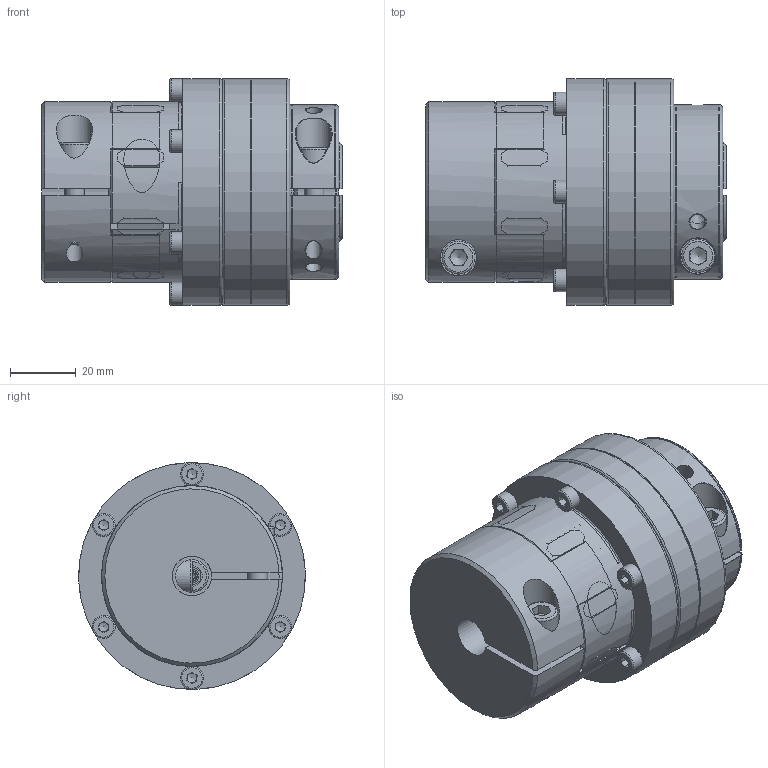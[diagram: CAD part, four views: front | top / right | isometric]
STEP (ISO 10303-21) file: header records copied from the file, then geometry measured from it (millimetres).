
FILE_DESCRIPTION( ( 'Unknown' ), '1' );
FILE_NAME( 'F:/JAKOB-STEP+IGES-Dateien/STEP-Dateien/SKB-EK/SKB-EK 15.stp', 'Unknown', ( 'Unknown' ), ( 'Unknown' ), 'XStep 1.0', 'Unknown', ' ' );
FILE_SCHEMA( ( 'CONFIG_CONTROL_DESIGN' ) );
Length unit declared in the file: millimetre
Products named in the file (11): SKB 15; Assem1; 23917252; KT102258; KT102577; KT101732; KT100050; Elastomerteil 2; kt101602; KT102316
Bounding box: 91.5 x 69 x 69 mm (x, y, z)
Surface area: 198336.2 mm2
Topology: 29 solids, 29 shells, 1280 faces, 3486 edges, 2229 vertices
Faces by surface type: plane 448, cylinder 441, cone 211, torus 144, sphere 36
Full cylindrical faces by diameter (mm): 2 x6, 3.3 x21, 4 x26, 4.3 x12, 5 x14, 6 x5, 6.5 x5, 7 x7, 10 x8, 11 x5, 12.5 x2, 27 x4, 28.6 x3, 29.8 x3, 30 x6, 35 x5, 36 x3, 38.2 x6, 38.893 x3, 39.293 x3, 47.1 x9, 54.2 x2, 55 x8, 55.5 x6, 58 x3, 59 x3, 66 x3, 69 x5
Entity records: 16892 total; most frequent: CARTESIAN_POINT 4717, DIRECTION 2462, ORIENTED_EDGE 2324, EDGE_CURVE 1162, AXIS2_PLACEMENT_3D 1060, VERTEX_POINT 803, EDGE_LOOP 682, CIRCLE 560
